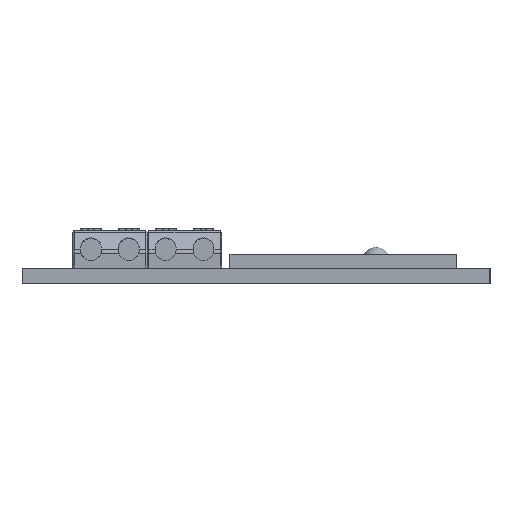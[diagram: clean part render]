
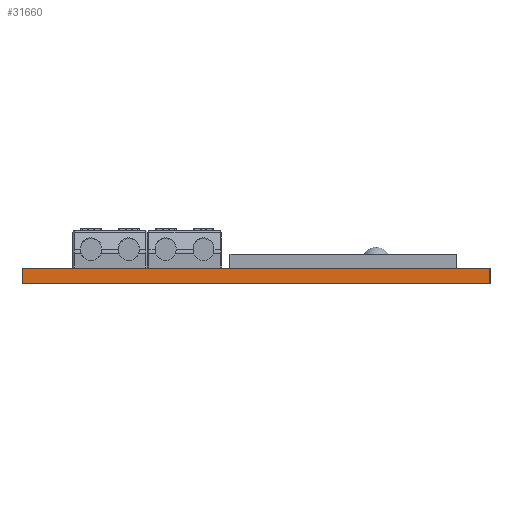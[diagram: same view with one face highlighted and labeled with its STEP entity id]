
A CAD part, left-side view. The second image highlights one B-rep face of the part: STEP entity #31660.
In plain terms, the highlighted planar face has unit normal (-1, 0, 0).
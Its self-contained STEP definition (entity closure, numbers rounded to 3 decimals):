
#876=LINE('',#46578,#4026);
#3319=LINE('',#55335,#6469);
#3320=LINE('',#55338,#6470);
#3321=LINE('',#55339,#6471);
#4026=VECTOR('',#35555,10.);
#6469=VECTOR('',#41458,10.);
#6470=VECTOR('',#41461,10.);
#6471=VECTOR('',#41462,10.);
#9430=FACE_OUTER_BOUND('',#11393,.T.);
#11393=EDGE_LOOP('',(#27812,#27813,#27814,#27815));
#12996=VERTEX_POINT('',#46571);
#12999=VERTEX_POINT('',#46576);
#15035=VERTEX_POINT('',#55333);
#15036=VERTEX_POINT('',#55337);
#16239=EDGE_CURVE('',#12999,#12996,#876,.T.);
#19326=EDGE_CURVE('',#12999,#15035,#3319,.T.);
#19327=EDGE_CURVE('',#15036,#15035,#3320,.T.);
#19328=EDGE_CURVE('',#12996,#15036,#3321,.T.);
#27812=ORIENTED_EDGE('',*,*,#16239,.F.);
#27813=ORIENTED_EDGE('',*,*,#19326,.T.);
#27814=ORIENTED_EDGE('',*,*,#19327,.F.);
#27815=ORIENTED_EDGE('',*,*,#19328,.F.);
#29008=PLANE('',#33937);
#31660=ADVANCED_FACE('',(#9430),#29008,.T.);
#33937=AXIS2_PLACEMENT_3D('',#55336,#41459,#41460);
#35555=DIRECTION('',(0.,-1.,0.));
#41458=DIRECTION('',(0.,0.,-1.));
#41459=DIRECTION('center_axis',(-1.,0.,0.));
#41460=DIRECTION('ref_axis',(0.,1.,0.));
#41461=DIRECTION('',(0.,1.,0.));
#41462=DIRECTION('',(0.,0.,-1.));
#46571=CARTESIAN_POINT('',(0.,0.,0.));
#46576=CARTESIAN_POINT('',(0.,49.5,0.));
#46578=CARTESIAN_POINT('',(0.,49.5,0.));
#55333=CARTESIAN_POINT('',(0.,49.5,-1.6));
#55335=CARTESIAN_POINT('',(0.,49.5,0.));
#55336=CARTESIAN_POINT('Origin',(0.,0.,0.));
#55337=CARTESIAN_POINT('',(0.,0.,-1.6));
#55338=CARTESIAN_POINT('',(0.,49.5,-1.6));
#55339=CARTESIAN_POINT('',(0.,0.,0.));
